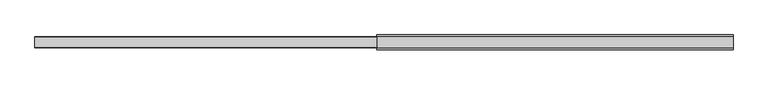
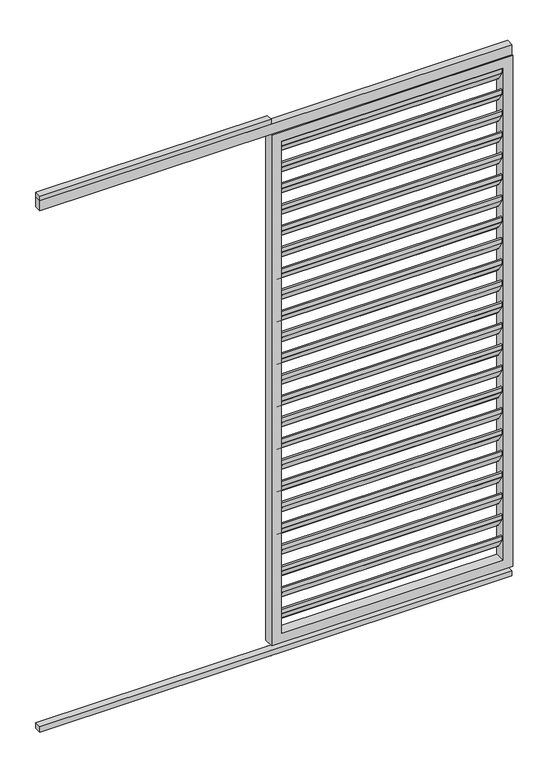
"""IFC4 building model written with IfcOpenShell, lengths in millimetres: proxy geometry, Renson_Algarve_Loggia_Paro_Aluminium : Renson_Algarve_Loggia_Paro_Aluminium."""

from ifc_helpers import new_model, si_unit, point, frame, frame_2d, origin, origin_with_axes, place, context, project, spatial, polyline, circle_curve, trimmed, segment, composite_curve, outline, extrude, source, transform, mapped, element, save


def generic_models_49771e81(model_context):
    return source(origin(), model_context, "Body", "SweptSolid", [
        extrude(outline(composite_curve([segment(polyline([(-10.1515804, 2164.292689), (14.3324079, 2126.5906532), (14.3324079, 2107.3412281)]), True, "CONTINUOUS"), segment(trimmed(circle_curve(frame_2d((11.3324079, 2107.3412281)), 3.0), [point((14.3324079, 2107.3412281))], [point((8.8163962, 2105.707311))], False, "CARTESIAN"), True, "CONTINUOUS"), segment(polyline([(8.8163962, 2105.707311), (-15.1836038, 2142.6640702)]), True, "CONTINUOUS"), segment(trimmed(circle_curve(frame_2d((-12.6675921, 2144.2979873)), 3.0), [point((-15.1836038, 2142.6640702))], [point((-15.6675921, 2144.2979873))], False, "CARTESIAN"), True, "CONTINUOUS"), segment(polyline([(-15.6675921, 2144.2979873), (-15.6675921, 2162.6587719)]), True, "CONTINUOUS"), segment(trimmed(circle_curve(frame_2d((-12.6675921, 2162.6587719)), 3.0), [point((-15.6675921, 2162.6587719))], [point((-10.1515804, 2164.292689))], False, "CARTESIAN"), True, "CONTINUOUS")], self_intersect=False)), frame((-442.5, 0.0, 0.0), z_axis=(1.0, 0.0, 0.0), x_axis=(0.0, 1.0, 0.0)), (0.0, 0.0, 1.0), 885.0),
        extrude(outline(composite_curve([segment(polyline([(-10.1515804, 2074.292689), (14.3324079, 2036.5906532), (14.3324079, 2017.3412281)]), True, "CONTINUOUS"), segment(trimmed(circle_curve(frame_2d((11.3324079, 2017.3412281)), 3.0), [point((14.3324079, 2017.3412281))], [point((8.8163962, 2015.707311))], False, "CARTESIAN"), True, "CONTINUOUS"), segment(polyline([(8.8163962, 2015.707311), (-15.1836038, 2052.6640702)]), True, "CONTINUOUS"), segment(trimmed(circle_curve(frame_2d((-12.6675921, 2054.2979873)), 3.0), [point((-15.1836038, 2052.6640702))], [point((-15.6675921, 2054.2979873))], False, "CARTESIAN"), True, "CONTINUOUS"), segment(polyline([(-15.6675921, 2054.2979873), (-15.6675921, 2072.6587719)]), True, "CONTINUOUS"), segment(trimmed(circle_curve(frame_2d((-12.6675921, 2072.6587719)), 3.0), [point((-15.6675921, 2072.6587719))], [point((-10.1515804, 2074.292689))], False, "CARTESIAN"), True, "CONTINUOUS")], self_intersect=False)), frame((-442.5, 0.0, 0.0), z_axis=(1.0, 0.0, 0.0), x_axis=(0.0, 1.0, 0.0)), (0.0, 0.0, 1.0), 885.0),
        extrude(outline(composite_curve([segment(polyline([(-10.1515804, 1984.292689), (14.3324079, 1946.5906532), (14.3324079, 1927.3412281)]), True, "CONTINUOUS"), segment(trimmed(circle_curve(frame_2d((11.3324079, 1927.3412281)), 3.0), [point((14.3324079, 1927.3412281))], [point((8.8163962, 1925.707311))], False, "CARTESIAN"), True, "CONTINUOUS"), segment(polyline([(8.8163962, 1925.707311), (-15.1836038, 1962.6640702)]), True, "CONTINUOUS"), segment(trimmed(circle_curve(frame_2d((-12.6675921, 1964.2979873)), 3.0), [point((-15.1836038, 1962.6640702))], [point((-15.6675921, 1964.2979873))], False, "CARTESIAN"), True, "CONTINUOUS"), segment(polyline([(-15.6675921, 1964.2979873), (-15.6675921, 1982.6587719)]), True, "CONTINUOUS"), segment(trimmed(circle_curve(frame_2d((-12.6675921, 1982.6587719)), 3.0), [point((-15.6675921, 1982.6587719))], [point((-10.1515804, 1984.292689))], False, "CARTESIAN"), True, "CONTINUOUS")], self_intersect=False)), frame((-442.5, 0.0, 0.0), z_axis=(1.0, 0.0, 0.0), x_axis=(0.0, 1.0, 0.0)), (0.0, 0.0, 1.0), 885.0),
        extrude(outline(composite_curve([segment(polyline([(-10.1515804, 1894.292689), (14.3324079, 1856.5906532), (14.3324079, 1837.3412281)]), True, "CONTINUOUS"), segment(trimmed(circle_curve(frame_2d((11.3324079, 1837.3412281)), 3.0), [point((14.3324079, 1837.3412281))], [point((8.8163962, 1835.707311))], False, "CARTESIAN"), True, "CONTINUOUS"), segment(polyline([(8.8163962, 1835.707311), (-15.1836038, 1872.6640702)]), True, "CONTINUOUS"), segment(trimmed(circle_curve(frame_2d((-12.6675921, 1874.2979873)), 3.0), [point((-15.1836038, 1872.6640702))], [point((-15.6675921, 1874.2979873))], False, "CARTESIAN"), True, "CONTINUOUS"), segment(polyline([(-15.6675921, 1874.2979873), (-15.6675921, 1892.6587719)]), True, "CONTINUOUS"), segment(trimmed(circle_curve(frame_2d((-12.6675921, 1892.6587719)), 3.0), [point((-15.6675921, 1892.6587719))], [point((-10.1515804, 1894.292689))], False, "CARTESIAN"), True, "CONTINUOUS")], self_intersect=False)), frame((-442.5, 0.0, 0.0), z_axis=(1.0, 0.0, 0.0), x_axis=(0.0, 1.0, 0.0)), (0.0, 0.0, 1.0), 885.0),
        extrude(outline(composite_curve([segment(polyline([(-10.1515804, 1804.292689), (14.3324079, 1766.5906532), (14.3324079, 1747.3412281)]), True, "CONTINUOUS"), segment(trimmed(circle_curve(frame_2d((11.3324079, 1747.3412281)), 3.0), [point((14.3324079, 1747.3412281))], [point((8.8163962, 1745.707311))], False, "CARTESIAN"), True, "CONTINUOUS"), segment(polyline([(8.8163962, 1745.707311), (-15.1836038, 1782.6640702)]), True, "CONTINUOUS"), segment(trimmed(circle_curve(frame_2d((-12.6675921, 1784.2979873)), 3.0), [point((-15.1836038, 1782.6640702))], [point((-15.6675921, 1784.2979873))], False, "CARTESIAN"), True, "CONTINUOUS"), segment(polyline([(-15.6675921, 1784.2979873), (-15.6675921, 1802.6587719)]), True, "CONTINUOUS"), segment(trimmed(circle_curve(frame_2d((-12.6675921, 1802.6587719)), 3.0), [point((-15.6675921, 1802.6587719))], [point((-10.1515804, 1804.292689))], False, "CARTESIAN"), True, "CONTINUOUS")], self_intersect=False)), frame((-442.5, 0.0, 0.0), z_axis=(1.0, 0.0, 0.0), x_axis=(0.0, 1.0, 0.0)), (0.0, 0.0, 1.0), 885.0),
        extrude(outline(composite_curve([segment(polyline([(-10.1515804, 1714.292689), (14.3324079, 1676.5906532), (14.3324079, 1657.3412281)]), True, "CONTINUOUS"), segment(trimmed(circle_curve(frame_2d((11.3324079, 1657.3412281)), 3.0), [point((14.3324079, 1657.3412281))], [point((8.8163962, 1655.707311))], False, "CARTESIAN"), True, "CONTINUOUS"), segment(polyline([(8.8163962, 1655.707311), (-15.1836038, 1692.6640702)]), True, "CONTINUOUS"), segment(trimmed(circle_curve(frame_2d((-12.6675921, 1694.2979873)), 3.0), [point((-15.1836038, 1692.6640702))], [point((-15.6675921, 1694.2979873))], False, "CARTESIAN"), True, "CONTINUOUS"), segment(polyline([(-15.6675921, 1694.2979873), (-15.6675921, 1712.6587719)]), True, "CONTINUOUS"), segment(trimmed(circle_curve(frame_2d((-12.6675921, 1712.6587719)), 3.0), [point((-15.6675921, 1712.6587719))], [point((-10.1515804, 1714.292689))], False, "CARTESIAN"), True, "CONTINUOUS")], self_intersect=False)), frame((-442.5, 0.0, 0.0), z_axis=(1.0, 0.0, 0.0), x_axis=(0.0, 1.0, 0.0)), (0.0, 0.0, 1.0), 885.0),
        extrude(outline(composite_curve([segment(polyline([(-10.1515804, 1624.292689), (14.3324079, 1586.5906532), (14.3324079, 1567.3412281)]), True, "CONTINUOUS"), segment(trimmed(circle_curve(frame_2d((11.3324079, 1567.3412281)), 3.0), [point((14.3324079, 1567.3412281))], [point((8.8163962, 1565.707311))], False, "CARTESIAN"), True, "CONTINUOUS"), segment(polyline([(8.8163962, 1565.707311), (-15.1836038, 1602.6640702)]), True, "CONTINUOUS"), segment(trimmed(circle_curve(frame_2d((-12.6675921, 1604.2979873)), 3.0), [point((-15.1836038, 1602.6640702))], [point((-15.6675921, 1604.2979873))], False, "CARTESIAN"), True, "CONTINUOUS"), segment(polyline([(-15.6675921, 1604.2979873), (-15.6675921, 1622.6587719)]), True, "CONTINUOUS"), segment(trimmed(circle_curve(frame_2d((-12.6675921, 1622.6587719)), 3.0), [point((-15.6675921, 1622.6587719))], [point((-10.1515804, 1624.292689))], False, "CARTESIAN"), True, "CONTINUOUS")], self_intersect=False)), frame((-442.5, 0.0, 0.0), z_axis=(1.0, 0.0, 0.0), x_axis=(0.0, 1.0, 0.0)), (0.0, 0.0, 1.0), 885.0),
        extrude(outline(composite_curve([segment(polyline([(-10.1515804, 1534.292689), (14.3324079, 1496.5906532), (14.3324079, 1477.3412281)]), True, "CONTINUOUS"), segment(trimmed(circle_curve(frame_2d((11.3324079, 1477.3412281)), 3.0), [point((14.3324079, 1477.3412281))], [point((8.8163962, 1475.707311))], False, "CARTESIAN"), True, "CONTINUOUS"), segment(polyline([(8.8163962, 1475.707311), (-15.1836038, 1512.6640702)]), True, "CONTINUOUS"), segment(trimmed(circle_curve(frame_2d((-12.6675921, 1514.2979873)), 3.0), [point((-15.1836038, 1512.6640702))], [point((-15.6675921, 1514.2979873))], False, "CARTESIAN"), True, "CONTINUOUS"), segment(polyline([(-15.6675921, 1514.2979873), (-15.6675921, 1532.6587719)]), True, "CONTINUOUS"), segment(trimmed(circle_curve(frame_2d((-12.6675921, 1532.6587719)), 3.0), [point((-15.6675921, 1532.6587719))], [point((-10.1515804, 1534.292689))], False, "CARTESIAN"), True, "CONTINUOUS")], self_intersect=False)), frame((-442.5, 0.0, 0.0), z_axis=(1.0, 0.0, 0.0), x_axis=(0.0, 1.0, 0.0)), (0.0, 0.0, 1.0), 885.0),
        extrude(outline(composite_curve([segment(polyline([(-10.1515804, 1444.292689), (14.3324079, 1406.5906532), (14.3324079, 1387.3412281)]), True, "CONTINUOUS"), segment(trimmed(circle_curve(frame_2d((11.3324079, 1387.3412281)), 3.0), [point((14.3324079, 1387.3412281))], [point((8.8163962, 1385.707311))], False, "CARTESIAN"), True, "CONTINUOUS"), segment(polyline([(8.8163962, 1385.707311), (-15.1836038, 1422.6640702)]), True, "CONTINUOUS"), segment(trimmed(circle_curve(frame_2d((-12.6675921, 1424.2979873)), 3.0), [point((-15.1836038, 1422.6640702))], [point((-15.6675921, 1424.2979873))], False, "CARTESIAN"), True, "CONTINUOUS"), segment(polyline([(-15.6675921, 1424.2979873), (-15.6675921, 1442.6587719)]), True, "CONTINUOUS"), segment(trimmed(circle_curve(frame_2d((-12.6675921, 1442.6587719)), 3.0), [point((-15.6675921, 1442.6587719))], [point((-10.1515804, 1444.292689))], False, "CARTESIAN"), True, "CONTINUOUS")], self_intersect=False)), frame((-442.5, 0.0, 0.0), z_axis=(1.0, 0.0, 0.0), x_axis=(0.0, 1.0, 0.0)), (0.0, 0.0, 1.0), 885.0),
        extrude(outline(composite_curve([segment(polyline([(-10.1515804, 1354.292689), (14.3324079, 1316.5906532), (14.3324079, 1297.3412281)]), True, "CONTINUOUS"), segment(trimmed(circle_curve(frame_2d((11.3324079, 1297.3412281)), 3.0), [point((14.3324079, 1297.3412281))], [point((8.8163962, 1295.707311))], False, "CARTESIAN"), True, "CONTINUOUS"), segment(polyline([(8.8163962, 1295.707311), (-15.1836038, 1332.6640702)]), True, "CONTINUOUS"), segment(trimmed(circle_curve(frame_2d((-12.6675921, 1334.2979873)), 3.0), [point((-15.1836038, 1332.6640702))], [point((-15.6675921, 1334.2979873))], False, "CARTESIAN"), True, "CONTINUOUS"), segment(polyline([(-15.6675921, 1334.2979873), (-15.6675921, 1352.6587719)]), True, "CONTINUOUS"), segment(trimmed(circle_curve(frame_2d((-12.6675921, 1352.6587719)), 3.0), [point((-15.6675921, 1352.6587719))], [point((-10.1515804, 1354.292689))], False, "CARTESIAN"), True, "CONTINUOUS")], self_intersect=False)), frame((-442.5, 0.0, 0.0), z_axis=(1.0, 0.0, 0.0), x_axis=(0.0, 1.0, 0.0)), (0.0, 0.0, 1.0), 885.0),
        extrude(outline(composite_curve([segment(polyline([(-10.1515804, 1264.292689), (14.3324079, 1226.5906532), (14.3324079, 1207.3412281)]), True, "CONTINUOUS"), segment(trimmed(circle_curve(frame_2d((11.3324079, 1207.3412281)), 3.0), [point((14.3324079, 1207.3412281))], [point((8.8163962, 1205.707311))], False, "CARTESIAN"), True, "CONTINUOUS"), segment(polyline([(8.8163962, 1205.707311), (-15.1836038, 1242.6640702)]), True, "CONTINUOUS"), segment(trimmed(circle_curve(frame_2d((-12.6675921, 1244.2979873)), 3.0), [point((-15.1836038, 1242.6640702))], [point((-15.6675921, 1244.2979873))], False, "CARTESIAN"), True, "CONTINUOUS"), segment(polyline([(-15.6675921, 1244.2979873), (-15.6675921, 1262.6587719)]), True, "CONTINUOUS"), segment(trimmed(circle_curve(frame_2d((-12.6675921, 1262.6587719)), 3.0), [point((-15.6675921, 1262.6587719))], [point((-10.1515804, 1264.292689))], False, "CARTESIAN"), True, "CONTINUOUS")], self_intersect=False)), frame((-442.5, 0.0, 0.0), z_axis=(1.0, 0.0, 0.0), x_axis=(0.0, 1.0, 0.0)), (0.0, 0.0, 1.0), 885.0),
        extrude(outline(composite_curve([segment(polyline([(-10.1515804, 1174.292689), (14.3324079, 1136.5906532), (14.3324079, 1117.3412281)]), True, "CONTINUOUS"), segment(trimmed(circle_curve(frame_2d((11.3324079, 1117.3412281)), 3.0), [point((14.3324079, 1117.3412281))], [point((8.8163962, 1115.707311))], False, "CARTESIAN"), True, "CONTINUOUS"), segment(polyline([(8.8163962, 1115.707311), (-15.1836038, 1152.6640702)]), True, "CONTINUOUS"), segment(trimmed(circle_curve(frame_2d((-12.6675921, 1154.2979873)), 3.0), [point((-15.1836038, 1152.6640702))], [point((-15.6675921, 1154.2979873))], False, "CARTESIAN"), True, "CONTINUOUS"), segment(polyline([(-15.6675921, 1154.2979873), (-15.6675921, 1172.6587719)]), True, "CONTINUOUS"), segment(trimmed(circle_curve(frame_2d((-12.6675921, 1172.6587719)), 3.0), [point((-15.6675921, 1172.6587719))], [point((-10.1515804, 1174.292689))], False, "CARTESIAN"), True, "CONTINUOUS")], self_intersect=False)), frame((-442.5, 0.0, 0.0), z_axis=(1.0, 0.0, 0.0), x_axis=(0.0, 1.0, 0.0)), (0.0, 0.0, 1.0), 885.0),
        extrude(outline(composite_curve([segment(polyline([(-10.1515804, 1084.292689), (14.3324079, 1046.5906532), (14.3324079, 1027.3412281)]), True, "CONTINUOUS"), segment(trimmed(circle_curve(frame_2d((11.3324079, 1027.3412281)), 3.0), [point((14.3324079, 1027.3412281))], [point((8.8163962, 1025.707311))], False, "CARTESIAN"), True, "CONTINUOUS"), segment(polyline([(8.8163962, 1025.707311), (-15.1836038, 1062.6640702)]), True, "CONTINUOUS"), segment(trimmed(circle_curve(frame_2d((-12.6675921, 1064.2979873)), 3.0), [point((-15.1836038, 1062.6640702))], [point((-15.6675921, 1064.2979873))], False, "CARTESIAN"), True, "CONTINUOUS"), segment(polyline([(-15.6675921, 1064.2979873), (-15.6675921, 1082.6587719)]), True, "CONTINUOUS"), segment(trimmed(circle_curve(frame_2d((-12.6675921, 1082.6587719)), 3.0), [point((-15.6675921, 1082.6587719))], [point((-10.1515804, 1084.292689))], False, "CARTESIAN"), True, "CONTINUOUS")], self_intersect=False)), frame((-442.5, 0.0, 0.0), z_axis=(1.0, 0.0, 0.0), x_axis=(0.0, 1.0, 0.0)), (0.0, 0.0, 1.0), 885.0),
        extrude(outline(composite_curve([segment(polyline([(-10.1515804, 994.292689), (14.3324079, 956.5906532), (14.3324079, 937.3412281)]), True, "CONTINUOUS"), segment(trimmed(circle_curve(frame_2d((11.3324079, 937.3412281)), 3.0), [point((14.3324079, 937.3412281))], [point((8.8163962, 935.707311))], False, "CARTESIAN"), True, "CONTINUOUS"), segment(polyline([(8.8163962, 935.707311), (-15.1836038, 972.6640702)]), True, "CONTINUOUS"), segment(trimmed(circle_curve(frame_2d((-12.6675921, 974.2979873)), 3.0), [point((-15.1836038, 972.6640702))], [point((-15.6675921, 974.2979873))], False, "CARTESIAN"), True, "CONTINUOUS"), segment(polyline([(-15.6675921, 974.2979873), (-15.6675921, 992.6587719)]), True, "CONTINUOUS"), segment(trimmed(circle_curve(frame_2d((-12.6675921, 992.6587719)), 3.0), [point((-15.6675921, 992.6587719))], [point((-10.1515804, 994.292689))], False, "CARTESIAN"), True, "CONTINUOUS")], self_intersect=False)), frame((-442.5, 0.0, 0.0), z_axis=(1.0, 0.0, 0.0), x_axis=(0.0, 1.0, 0.0)), (0.0, 0.0, 1.0), 885.0),
        extrude(outline(composite_curve([segment(polyline([(-10.1515804, 904.292689), (14.3324079, 866.5906532), (14.3324079, 847.3412281)]), True, "CONTINUOUS"), segment(trimmed(circle_curve(frame_2d((11.3324079, 847.3412281)), 3.0), [point((14.3324079, 847.3412281))], [point((8.8163962, 845.707311))], False, "CARTESIAN"), True, "CONTINUOUS"), segment(polyline([(8.8163962, 845.707311), (-15.1836038, 882.6640702)]), True, "CONTINUOUS"), segment(trimmed(circle_curve(frame_2d((-12.6675921, 884.2979873)), 3.0), [point((-15.1836038, 882.6640702))], [point((-15.6675921, 884.2979873))], False, "CARTESIAN"), True, "CONTINUOUS"), segment(polyline([(-15.6675921, 884.2979873), (-15.6675921, 902.6587719)]), True, "CONTINUOUS"), segment(trimmed(circle_curve(frame_2d((-12.6675921, 902.6587719)), 3.0), [point((-15.6675921, 902.6587719))], [point((-10.1515804, 904.292689))], False, "CARTESIAN"), True, "CONTINUOUS")], self_intersect=False)), frame((-442.5, 0.0, 0.0), z_axis=(1.0, 0.0, 0.0), x_axis=(0.0, 1.0, 0.0)), (0.0, 0.0, 1.0), 885.0),
        extrude(outline(composite_curve([segment(polyline([(-10.1515804, 814.292689), (14.3324079, 776.5906532), (14.3324079, 757.3412281)]), True, "CONTINUOUS"), segment(trimmed(circle_curve(frame_2d((11.3324079, 757.3412281)), 3.0), [point((14.3324079, 757.3412281))], [point((8.8163962, 755.707311))], False, "CARTESIAN"), True, "CONTINUOUS"), segment(polyline([(8.8163962, 755.707311), (-15.1836038, 792.6640702)]), True, "CONTINUOUS"), segment(trimmed(circle_curve(frame_2d((-12.6675921, 794.2979873)), 3.0), [point((-15.1836038, 792.6640702))], [point((-15.6675921, 794.2979873))], False, "CARTESIAN"), True, "CONTINUOUS"), segment(polyline([(-15.6675921, 794.2979873), (-15.6675921, 812.6587719)]), True, "CONTINUOUS"), segment(trimmed(circle_curve(frame_2d((-12.6675921, 812.6587719)), 3.0), [point((-15.6675921, 812.6587719))], [point((-10.1515804, 814.292689))], False, "CARTESIAN"), True, "CONTINUOUS")], self_intersect=False)), frame((-442.5, 0.0, 0.0), z_axis=(1.0, 0.0, 0.0), x_axis=(0.0, 1.0, 0.0)), (0.0, 0.0, 1.0), 885.0),
        extrude(outline(composite_curve([segment(polyline([(-10.1515804, 724.292689), (14.3324079, 686.5906532), (14.3324079, 667.3412281)]), True, "CONTINUOUS"), segment(trimmed(circle_curve(frame_2d((11.3324079, 667.3412281)), 3.0), [point((14.3324079, 667.3412281))], [point((8.8163962, 665.707311))], False, "CARTESIAN"), True, "CONTINUOUS"), segment(polyline([(8.8163962, 665.707311), (-15.1836038, 702.6640702)]), True, "CONTINUOUS"), segment(trimmed(circle_curve(frame_2d((-12.6675921, 704.2979873)), 3.0), [point((-15.1836038, 702.6640702))], [point((-15.6675921, 704.2979873))], False, "CARTESIAN"), True, "CONTINUOUS"), segment(polyline([(-15.6675921, 704.2979873), (-15.6675921, 722.6587719)]), True, "CONTINUOUS"), segment(trimmed(circle_curve(frame_2d((-12.6675921, 722.6587719)), 3.0), [point((-15.6675921, 722.6587719))], [point((-10.1515804, 724.292689))], False, "CARTESIAN"), True, "CONTINUOUS")], self_intersect=False)), frame((-442.5, 0.0, 0.0), z_axis=(1.0, 0.0, 0.0), x_axis=(0.0, 1.0, 0.0)), (0.0, 0.0, 1.0), 885.0),
        extrude(outline(composite_curve([segment(polyline([(-10.1515804, 634.292689), (14.3324079, 596.5906532), (14.3324079, 577.3412281)]), True, "CONTINUOUS"), segment(trimmed(circle_curve(frame_2d((11.3324079, 577.3412281)), 3.0), [point((14.3324079, 577.3412281))], [point((8.8163962, 575.707311))], False, "CARTESIAN"), True, "CONTINUOUS"), segment(polyline([(8.8163962, 575.707311), (-15.1836038, 612.6640702)]), True, "CONTINUOUS"), segment(trimmed(circle_curve(frame_2d((-12.6675921, 614.2979873)), 3.0), [point((-15.1836038, 612.6640702))], [point((-15.6675921, 614.2979873))], False, "CARTESIAN"), True, "CONTINUOUS"), segment(polyline([(-15.6675921, 614.2979873), (-15.6675921, 632.6587719)]), True, "CONTINUOUS"), segment(trimmed(circle_curve(frame_2d((-12.6675921, 632.6587719)), 3.0), [point((-15.6675921, 632.6587719))], [point((-10.1515804, 634.292689))], False, "CARTESIAN"), True, "CONTINUOUS")], self_intersect=False)), frame((-442.5, 0.0, 0.0), z_axis=(1.0, 0.0, 0.0), x_axis=(0.0, 1.0, 0.0)), (0.0, 0.0, 1.0), 885.0),
        extrude(outline(composite_curve([segment(polyline([(-10.1515804, 544.292689), (14.3324079, 506.5906532), (14.3324079, 487.3412281)]), True, "CONTINUOUS"), segment(trimmed(circle_curve(frame_2d((11.3324079, 487.3412281)), 3.0), [point((14.3324079, 487.3412281))], [point((8.8163962, 485.707311))], False, "CARTESIAN"), True, "CONTINUOUS"), segment(polyline([(8.8163962, 485.707311), (-15.1836038, 522.6640702)]), True, "CONTINUOUS"), segment(trimmed(circle_curve(frame_2d((-12.6675921, 524.2979873)), 3.0), [point((-15.1836038, 522.6640702))], [point((-15.6675921, 524.2979873))], False, "CARTESIAN"), True, "CONTINUOUS"), segment(polyline([(-15.6675921, 524.2979873), (-15.6675921, 542.6587719)]), True, "CONTINUOUS"), segment(trimmed(circle_curve(frame_2d((-12.6675921, 542.6587719)), 3.0), [point((-15.6675921, 542.6587719))], [point((-10.1515804, 544.292689))], False, "CARTESIAN"), True, "CONTINUOUS")], self_intersect=False)), frame((-442.5, 0.0, 0.0), z_axis=(1.0, 0.0, 0.0), x_axis=(0.0, 1.0, 0.0)), (0.0, 0.0, 1.0), 885.0),
        extrude(outline(composite_curve([segment(polyline([(-10.1515804, 454.292689), (14.3324079, 416.5906532), (14.3324079, 397.3412281)]), True, "CONTINUOUS"), segment(trimmed(circle_curve(frame_2d((11.3324079, 397.3412281)), 3.0), [point((14.3324079, 397.3412281))], [point((8.8163962, 395.707311))], False, "CARTESIAN"), True, "CONTINUOUS"), segment(polyline([(8.8163962, 395.707311), (-15.1836038, 432.6640702)]), True, "CONTINUOUS"), segment(trimmed(circle_curve(frame_2d((-12.6675921, 434.2979873)), 3.0), [point((-15.1836038, 432.6640702))], [point((-15.6675921, 434.2979873))], False, "CARTESIAN"), True, "CONTINUOUS"), segment(polyline([(-15.6675921, 434.2979873), (-15.6675921, 452.6587719)]), True, "CONTINUOUS"), segment(trimmed(circle_curve(frame_2d((-12.6675921, 452.6587719)), 3.0), [point((-15.6675921, 452.6587719))], [point((-10.1515804, 454.292689))], False, "CARTESIAN"), True, "CONTINUOUS")], self_intersect=False)), frame((-442.5, 0.0, 0.0), z_axis=(1.0, 0.0, 0.0), x_axis=(0.0, 1.0, 0.0)), (0.0, 0.0, 1.0), 885.0),
        extrude(outline(composite_curve([segment(polyline([(-10.1515804, 364.292689), (14.3324079, 326.5906532), (14.3324079, 307.3412281)]), True, "CONTINUOUS"), segment(trimmed(circle_curve(frame_2d((11.3324079, 307.3412281)), 3.0), [point((14.3324079, 307.3412281))], [point((8.8163962, 305.707311))], False, "CARTESIAN"), True, "CONTINUOUS"), segment(polyline([(8.8163962, 305.707311), (-15.1836038, 342.6640702)]), True, "CONTINUOUS"), segment(trimmed(circle_curve(frame_2d((-12.6675921, 344.2979873)), 3.0), [point((-15.1836038, 342.6640702))], [point((-15.6675921, 344.2979873))], False, "CARTESIAN"), True, "CONTINUOUS"), segment(polyline([(-15.6675921, 344.2979873), (-15.6675921, 362.6587719)]), True, "CONTINUOUS"), segment(trimmed(circle_curve(frame_2d((-12.6675921, 362.6587719)), 3.0), [point((-15.6675921, 362.6587719))], [point((-10.1515804, 364.292689))], False, "CARTESIAN"), True, "CONTINUOUS")], self_intersect=False)), frame((-442.5, 0.0, 0.0), z_axis=(1.0, 0.0, 0.0), x_axis=(0.0, 1.0, 0.0)), (0.0, 0.0, 1.0), 885.0),
        extrude(outline(composite_curve([segment(polyline([(-10.1515804, 274.292689), (14.3324079, 236.5906532), (14.3324079, 217.3412281)]), True, "CONTINUOUS"), segment(trimmed(circle_curve(frame_2d((11.3324079, 217.3412281)), 3.0), [point((14.3324079, 217.3412281))], [point((8.8163962, 215.707311))], False, "CARTESIAN"), True, "CONTINUOUS"), segment(polyline([(8.8163962, 215.707311), (-15.1836038, 252.6640702)]), True, "CONTINUOUS"), segment(trimmed(circle_curve(frame_2d((-12.6675921, 254.2979873)), 3.0), [point((-15.1836038, 252.6640702))], [point((-15.6675921, 254.2979873))], False, "CARTESIAN"), True, "CONTINUOUS"), segment(polyline([(-15.6675921, 254.2979873), (-15.6675921, 272.6587719)]), True, "CONTINUOUS"), segment(trimmed(circle_curve(frame_2d((-12.6675921, 272.6587719)), 3.0), [point((-15.6675921, 272.6587719))], [point((-10.1515804, 274.292689))], False, "CARTESIAN"), True, "CONTINUOUS")], self_intersect=False)), frame((-442.5, 0.0, 0.0), z_axis=(1.0, 0.0, 0.0), x_axis=(0.0, 1.0, 0.0)), (0.0, 0.0, 1.0), 885.0),
        extrude(outline(composite_curve([segment(polyline([(-10.1515804, 184.292689), (14.3324079, 146.5906532), (14.3324079, 127.3412281)]), True, "CONTINUOUS"), segment(trimmed(circle_curve(frame_2d((11.3324079, 127.3412281)), 3.0), [point((14.3324079, 127.3412281))], [point((8.8163962, 125.707311))], False, "CARTESIAN"), True, "CONTINUOUS"), segment(polyline([(8.8163962, 125.707311), (-15.1836038, 162.6640702)]), True, "CONTINUOUS"), segment(trimmed(circle_curve(frame_2d((-12.6675921, 164.2979873)), 3.0), [point((-15.1836038, 162.6640702))], [point((-15.6675921, 164.2979873))], False, "CARTESIAN"), True, "CONTINUOUS"), segment(polyline([(-15.6675921, 164.2979873), (-15.6675921, 182.6587719)]), True, "CONTINUOUS"), segment(trimmed(circle_curve(frame_2d((-12.6675921, 182.6587719)), 3.0), [point((-15.6675921, 182.6587719))], [point((-10.1515804, 184.292689))], False, "CARTESIAN"), True, "CONTINUOUS")], self_intersect=False)), frame((-442.5, 0.0, 0.0), z_axis=(1.0, 0.0, 0.0), x_axis=(0.0, 1.0, 0.0)), (0.0, 0.0, 1.0), 885.0),
        extrude(outline(polyline([(-481.5, 13.0), (-481.5, -14.0), (-1407.5, -14.0), (-1407.5, 13.0), (-481.5, 13.0)])), frame((0.0, 0.0, 2250.0), z_axis=(0.0, 0.0, 1.0), x_axis=(1.0, 0.0, 0.0)), (0.0, 0.0, 1.0), 20.0),
        extrude(outline(polyline([(482.5, -15.0), (-1407.5, -15.0), (-1407.5, 15.0), (482.5, 15.0), (482.5, -15.0)])), frame((0.0, 0.0, 2207.7138321), z_axis=(0.0, 0.0, 1.0), x_axis=(1.0, 0.0, 0.0)), (0.0, 0.0, 1.0), 42.2861679),
        extrude(outline(polyline([(-481.5, -15.0), (-482.5, -15.0), (-482.5, 15.0), (-481.5, 15.0), (-481.5, -15.0)])), frame((0.0, 0.0, 2207.7138321), z_axis=(0.0, 0.0, 1.0), x_axis=(1.0, 0.0, 0.0)), (0.0, 0.0, 1.0), 42.2861679),
        extrude(outline(polyline([(482.5, 13.0), (482.5, -14.0), (-1407.5, -14.0), (-1407.5, 13.0), (482.5, 13.0)])), origin_with_axes(), (0.0, 0.0, 1.0), 23.0),
        extrude(outline(polyline([(-481.5, 13.0), (-481.5, -14.0), (-482.5, -14.0), (-482.5, 13.0), (-481.5, 13.0)])), origin_with_axes(), (0.0, 0.0, 1.0), 23.0),
        extrude(outline(polyline([(2207.7138321, 482.5), (2207.7138321, -482.5), (45.0, -482.5), (45.0, 482.5), (2207.7138321, 482.5)]), holes=[polyline([(2167.7138321, -442.5), (2167.7138321, 442.5), (85.0, 442.5), (85.0, -442.5), (2167.7138321, -442.5)])]), frame((0.0, -20.0, 0.0), z_axis=(0.0, 1.0, 0.0), x_axis=(0.0, 0.0, 1.0)), (0.0, 0.0, 1.0), 40.0),
    ])


if __name__ == "__main__":
    model = new_model("IFC4")
    model_context = context("Model", 3, world=origin())
    ifc_project = project(units=[si_unit("LENGTHUNIT", "METRE", prefix="MILLI")], contexts=[model_context])
    site = spatial("IfcSite", under=ifc_project)
    building = spatial("IfcBuilding", under=site)
    placement = place(None, origin())
    generic_models_shape = generic_models_49771e81(model_context)
    element("IfcBuildingElementProxy", 1, Name="Renson_Algarve_Loggia_Paro_Aluminium : Renson_Algarve_Loggia_Paro_Aluminium", ObjectType="Renson_Algarve_Loggia_Paro_Aluminium : Renson_Algarve_Loggia_Paro_Aluminium", at=placement, inside=building, context=model_context, shape_type="MappedRepresentation", body=[
        mapped(generic_models_shape, transform((0.0, 0.0, 0.0), x_axis=(1.0, 0.0, 0.0), y_axis=(0.0, 1.0, 0.0), z_axis=(0.0, 0.0, 1.0))),
    ])
    save(model, "model.ifc")
